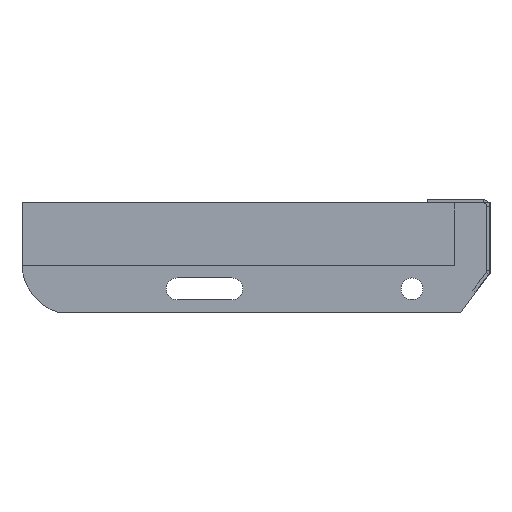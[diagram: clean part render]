
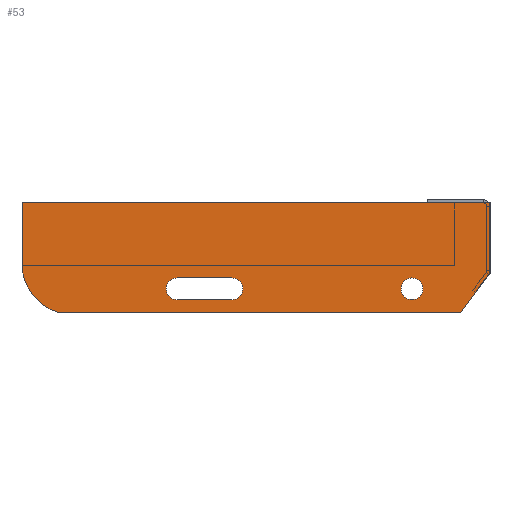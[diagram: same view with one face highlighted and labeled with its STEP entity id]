
A CAD part, left-side view. The second image highlights one B-rep face of the part: STEP entity #53.
In plain terms, the highlighted planar face has unit normal (-1, 0, 0) as drawn and (0, 0, 1) by its records, which use the part's own axes.
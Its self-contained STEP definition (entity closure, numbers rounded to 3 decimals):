
#2 = CARTESIAN_POINT ( 'NONE',  ( 0., -45., 3. ) ) ;
#6 = VECTOR ( 'NONE', #1857, 1000. ) ;
#33 = VERTEX_POINT ( 'NONE', #1796 ) ;
#53 = ADVANCED_FACE ( 'NONE', ( #850, #236, #1810 ), #265, .T. ) ;
#68 = CARTESIAN_POINT ( 'NONE',  ( -207.5, -55., 3. ) ) ;
#71 = VERTEX_POINT ( 'NONE', #68 ) ;
#72 = CIRCLE ( 'NONE', #233, 32.5 ) ;
#93 = VERTEX_POINT ( 'NONE', #394 ) ;
#99 = DIRECTION ( 'NONE',  ( 1., 0., 0. ) ) ;
#102 = VERTEX_POINT ( 'NONE', #386 ) ;
#136 = LINE ( 'NONE', #149, #1056 ) ;
#140 = EDGE_CURVE ( 'NONE', #93, #259, #431, .T. ) ;
#141 = VERTEX_POINT ( 'NONE', #770 ) ;
#149 = CARTESIAN_POINT ( 'NONE',  ( -18.839, -70., 3. ) ) ;
#170 = EDGE_LOOP ( 'NONE', ( #1602, #334, #802, #876, #1104, #1113 ) ) ;
#177 = CARTESIAN_POINT ( 'NONE',  ( -50., -55., 3. ) ) ;
#207 = VECTOR ( 'NONE', #1108, 1000. ) ;
#228 = CARTESIAN_POINT ( 'NONE',  ( -300., 0., 3. ) ) ;
#233 = AXIS2_PLACEMENT_3D ( 'NONE', #1528, #440, #1214 ) ;
#235 = CARTESIAN_POINT ( 'NONE',  ( 0., 0., 3. ) ) ;
#236 = FACE_BOUND ( 'NONE', #654, .T. ) ;
#237 = AXIS2_PLACEMENT_3D ( 'NONE', #475, #1273, #1084 ) ;
#251 = EDGE_CURVE ( 'NONE', #1297, #1208, #72, .T. ) ;
#259 = VERTEX_POINT ( 'NONE', #2 ) ;
#265 = PLANE ( 'NONE',  #1703 ) ;
#270 = VECTOR ( 'NONE', #99, 1000. ) ;
#285 = EDGE_CURVE ( 'NONE', #1208, #93, #136, .T. ) ;
#319 = DIRECTION ( 'NONE',  ( 1., 0., 0. ) ) ;
#334 = ORIENTED_EDGE ( 'NONE', *, *, #1990, .T. ) ;
#367 = VECTOR ( 'NONE', #1782, 1000. ) ;
#386 = CARTESIAN_POINT ( 'NONE',  ( -200.5, -48., 3. ) ) ;
#394 = CARTESIAN_POINT ( 'NONE',  ( -18.839, -70., 3. ) ) ;
#409 = CARTESIAN_POINT ( 'NONE',  ( -267.5, -39., 3. ) ) ;
#410 = EDGE_CURVE ( 'NONE', #141, #461, #436, .T. ) ;
#413 = DIRECTION ( 'NONE',  ( -1., 0., 0. ) ) ;
#423 = EDGE_CURVE ( 'NONE', #259, #33, #1148, .T. ) ;
#431 = LINE ( 'NONE', #448, #6 ) ;
#436 = CIRCLE ( 'NONE', #1544, 7. ) ;
#440 = DIRECTION ( 'NONE',  ( 0., 0., 1. ) ) ;
#448 = CARTESIAN_POINT ( 'NONE',  ( 0., -45., 3. ) ) ;
#461 = VERTEX_POINT ( 'NONE', #635 ) ;
#475 = CARTESIAN_POINT ( 'NONE',  ( -200.5, -55., 3. ) ) ;
#486 = ORIENTED_EDGE ( 'NONE', *, *, #860, .F. ) ;
#492 = EDGE_LOOP ( 'NONE', ( #486, #641, #791, #1892, #1586 ) ) ;
#545 = DIRECTION ( 'NONE',  ( 0., 0., 1. ) ) ;
#571 = CARTESIAN_POINT ( 'NONE',  ( -200.5, -55., 3. ) ) ;
#609 = DIRECTION ( 'NONE',  ( 1., 0., 0. ) ) ;
#635 = CARTESIAN_POINT ( 'NONE',  ( -43., -55., 3. ) ) ;
#641 = ORIENTED_EDGE ( 'NONE', *, *, #2018, .F. ) ;
#654 = EDGE_LOOP ( 'NONE', ( #1909, #1791 ) ) ;
#698 = DIRECTION ( 'NONE',  ( 0., 0., 1. ) ) ;
#699 = AXIS2_PLACEMENT_3D ( 'NONE', #1343, #545, #1162 ) ;
#746 = EDGE_CURVE ( 'NONE', #102, #71, #796, .T. ) ;
#755 = CARTESIAN_POINT ( 'NONE',  ( -200.5, -62., 3. ) ) ;
#770 = CARTESIAN_POINT ( 'NONE',  ( -57., -55., 3. ) ) ;
#788 = DIRECTION ( 'NONE',  ( 1., 0., 0. ) ) ;
#791 = ORIENTED_EDGE ( 'NONE', *, *, #746, .F. ) ;
#796 = CIRCLE ( 'NONE', #237, 7. ) ;
#802 = ORIENTED_EDGE ( 'NONE', *, *, #1258, .T. ) ;
#850 = FACE_OUTER_BOUND ( 'NONE', #170, .T. ) ;
#857 = DIRECTION ( 'NONE',  ( -1., 0., 0. ) ) ;
#860 = EDGE_CURVE ( 'NONE', #1268, #911, #1664, .T. ) ;
#862 = CIRCLE ( 'NONE', #2007, 7. ) ;
#876 = ORIENTED_EDGE ( 'NONE', *, *, #251, .T. ) ;
#911 = VERTEX_POINT ( 'NONE', #1237 ) ;
#1001 = CARTESIAN_POINT ( 'NONE',  ( -200.5, -62., 3. ) ) ;
#1008 = VERTEX_POINT ( 'NONE', #1998 ) ;
#1018 = LINE ( 'NONE', #228, #367 ) ;
#1036 = LINE ( 'NONE', #235, #1517 ) ;
#1056 = VECTOR ( 'NONE', #1866, 1000. ) ;
#1084 = DIRECTION ( 'NONE',  ( 1., 0., 0. ) ) ;
#1104 = ORIENTED_EDGE ( 'NONE', *, *, #285, .T. ) ;
#1108 = DIRECTION ( 'NONE',  ( 0., 1., 0. ) ) ;
#1113 = ORIENTED_EDGE ( 'NONE', *, *, #140, .T. ) ;
#1126 = CIRCLE ( 'NONE', #1648, 7. ) ;
#1143 = CARTESIAN_POINT ( 'NONE',  ( -277.26, -70., 3. ) ) ;
#1148 = LINE ( 'NONE', #1599, #207 ) ;
#1158 = VECTOR ( 'NONE', #413, 1000. ) ;
#1162 = DIRECTION ( 'NONE',  ( 1., 0., 0. ) ) ;
#1174 = CARTESIAN_POINT ( 'NONE',  ( -200.5, -48., 3. ) ) ;
#1181 = CARTESIAN_POINT ( 'NONE',  ( -300., -39., 3. ) ) ;
#1208 = VERTEX_POINT ( 'NONE', #1143 ) ;
#1214 = DIRECTION ( 'NONE',  ( 1., 0., 0. ) ) ;
#1237 = CARTESIAN_POINT ( 'NONE',  ( -165.5, -62., 3. ) ) ;
#1258 = EDGE_CURVE ( 'NONE', #1008, #1297, #1018, .T. ) ;
#1268 = VERTEX_POINT ( 'NONE', #1001 ) ;
#1273 = DIRECTION ( 'NONE',  ( 0., 0., 1. ) ) ;
#1295 = DIRECTION ( 'NONE',  ( 0., 0., 1. ) ) ;
#1297 = VERTEX_POINT ( 'NONE', #1181 ) ;
#1315 = LINE ( 'NONE', #1174, #1158 ) ;
#1343 = CARTESIAN_POINT ( 'NONE',  ( -50., -55., 3. ) ) ;
#1408 = EDGE_CURVE ( 'NONE', #1768, #102, #1315, .T. ) ;
#1447 = DIRECTION ( 'NONE',  ( 0., 0., 1. ) ) ;
#1454 = CIRCLE ( 'NONE', #699, 7. ) ;
#1517 = VECTOR ( 'NONE', #857, 1000. ) ;
#1528 = CARTESIAN_POINT ( 'NONE',  ( -267.5, -39., 3. ) ) ;
#1544 = AXIS2_PLACEMENT_3D ( 'NONE', #177, #1295, #788 ) ;
#1558 = DIRECTION ( 'NONE',  ( 0., 0., 1. ) ) ;
#1586 = ORIENTED_EDGE ( 'NONE', *, *, #1679, .F. ) ;
#1599 = CARTESIAN_POINT ( 'NONE',  ( 0., 0., 3. ) ) ;
#1602 = ORIENTED_EDGE ( 'NONE', *, *, #423, .T. ) ;
#1610 = CARTESIAN_POINT ( 'NONE',  ( -165.5, -48., 3. ) ) ;
#1648 = AXIS2_PLACEMENT_3D ( 'NONE', #1732, #1447, #319 ) ;
#1663 = DIRECTION ( 'NONE',  ( 1., 0., 0. ) ) ;
#1664 = LINE ( 'NONE', #755, #270 ) ;
#1679 = EDGE_CURVE ( 'NONE', #911, #1768, #1126, .T. ) ;
#1703 = AXIS2_PLACEMENT_3D ( 'NONE', #409, #698, #1663 ) ;
#1732 = CARTESIAN_POINT ( 'NONE',  ( -165.5, -55., 3. ) ) ;
#1768 = VERTEX_POINT ( 'NONE', #1610 ) ;
#1782 = DIRECTION ( 'NONE',  ( 0., -1., 0. ) ) ;
#1791 = ORIENTED_EDGE ( 'NONE', *, *, #1865, .F. ) ;
#1796 = CARTESIAN_POINT ( 'NONE',  ( 0., 0., 3. ) ) ;
#1810 = FACE_BOUND ( 'NONE', #492, .T. ) ;
#1857 = DIRECTION ( 'NONE',  ( 0.602, 0.799, 0. ) ) ;
#1865 = EDGE_CURVE ( 'NONE', #461, #141, #1454, .T. ) ;
#1866 = DIRECTION ( 'NONE',  ( 1., 0., 0. ) ) ;
#1892 = ORIENTED_EDGE ( 'NONE', *, *, #1408, .F. ) ;
#1909 = ORIENTED_EDGE ( 'NONE', *, *, #410, .F. ) ;
#1990 = EDGE_CURVE ( 'NONE', #33, #1008, #1036, .T. ) ;
#1998 = CARTESIAN_POINT ( 'NONE',  ( -300., 0., 3. ) ) ;
#2007 = AXIS2_PLACEMENT_3D ( 'NONE', #571, #1558, #609 ) ;
#2018 = EDGE_CURVE ( 'NONE', #71, #1268, #862, .T. ) ;
